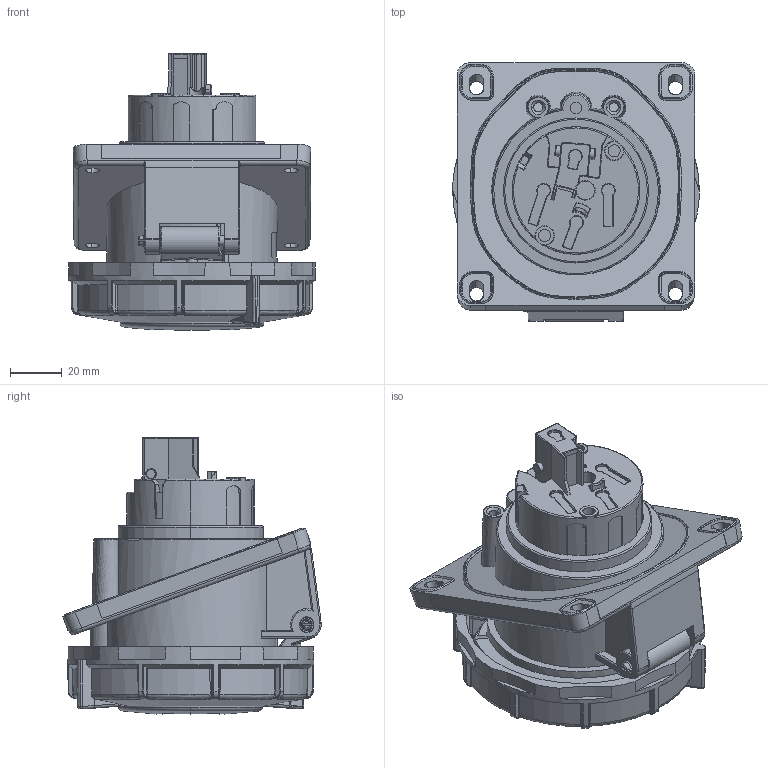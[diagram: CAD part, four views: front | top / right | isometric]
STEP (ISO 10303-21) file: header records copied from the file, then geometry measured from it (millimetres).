
FILE_DESCRIPTION (( 'STEP AP203' ), '1' );
FILE_NAME ('DIS4181666 (PAS 4p 16ﾀ 400ﾂ IP67).STEP', '2024-09-03T07:03:41', ( '' ), ( '' ), 'SwSTEP 2.0', 'SolidWorks 2022', '' );
FILE_SCHEMA (( 'CONFIG_CONTROL_DESIGN' ));
Length unit declared in the file: millimetre
Products named in the file (1): DIS4181666 (PAS 4p 16А 400В IP67)
Bounding box: 95.5 x 100.08 x 107.07 mm (x, y, z)
Volume: 367602.7 mm3; surface area: 76020.4 mm2
Topology: 1 solids, 6 shells, 1447 faces, 3866 edges, 2415 vertices
Faces by surface type: cylinder 441, plane 391, bspline 268, torus 171, cone 95, sphere 81
Entity records: 58296 total; most frequent: CARTESIAN_POINT 25096, ORIENTED_EDGE 7606, DIRECTION 6245, EDGE_CURVE 3803, AXIS2_PLACEMENT_3D 2515, VERTEX_POINT 2399, EDGE_LOOP 1492, FACE_OUTER_BOUND 1447
